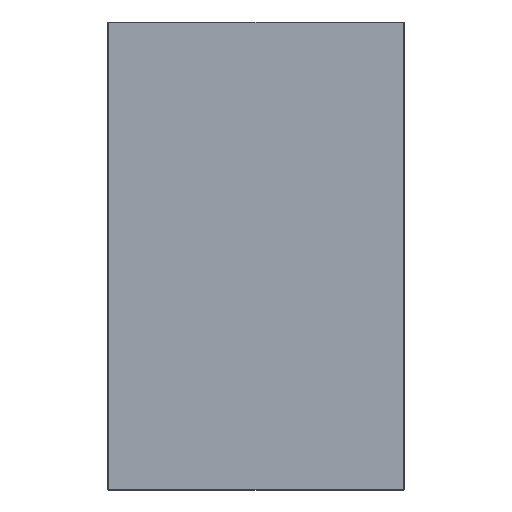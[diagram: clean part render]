
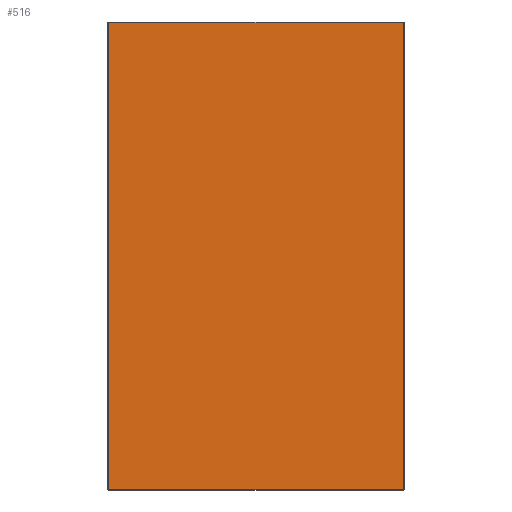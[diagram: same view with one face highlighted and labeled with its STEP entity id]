
A CAD part, front view. The second image highlights one B-rep face of the part: STEP entity #516.
In plain terms, the highlighted planar face has unit normal (0, -1, 0).
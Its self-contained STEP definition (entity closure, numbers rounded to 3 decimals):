
#18 = CARTESIAN_POINT ( 'NONE',  ( 0., 0., 0. ) ) ;
#25 = CARTESIAN_POINT ( 'NONE',  ( 0., 0., -272. ) ) ;
#27 = DIRECTION ( 'NONE',  ( 0., 0., 1. ) ) ;
#45 = DIRECTION ( 'NONE',  ( 0., 1., 0. ) ) ;
#75 = EDGE_CURVE ( 'NONE', #589, #77, #607, .T. ) ;
#77 = VERTEX_POINT ( 'NONE', #159 ) ;
#98 = LINE ( 'NONE', #512, #116 ) ;
#104 = FACE_OUTER_BOUND ( 'NONE', #146, .T. ) ;
#116 = VECTOR ( 'NONE', #246, 1000. ) ;
#120 = CARTESIAN_POINT ( 'NONE',  ( 172., 0., 272. ) ) ;
#126 = PLANE ( 'NONE',  #180 ) ;
#135 = DIRECTION ( 'NONE',  ( 1., 0., 0. ) ) ;
#140 = EDGE_CURVE ( 'NONE', #77, #536, #464, .T. ) ;
#145 = VECTOR ( 'NONE', #286, 1000. ) ;
#146 = EDGE_LOOP ( 'NONE', ( #489, #461, #462, #399 ) ) ;
#159 = CARTESIAN_POINT ( 'NONE',  ( -172., 0., -272. ) ) ;
#180 = AXIS2_PLACEMENT_3D ( 'NONE', #18, #45, #27 ) ;
#210 = CARTESIAN_POINT ( 'NONE',  ( 172., 0., -272. ) ) ;
#221 = VERTEX_POINT ( 'NONE', #120 ) ;
#246 = DIRECTION ( 'NONE',  ( 0., 0., 1. ) ) ;
#262 = LINE ( 'NONE', #550, #145 ) ;
#275 = CARTESIAN_POINT ( 'NONE',  ( -172., 0., 272. ) ) ;
#286 = DIRECTION ( 'NONE',  ( -1., 0., 0. ) ) ;
#348 = VECTOR ( 'NONE', #564, 1000. ) ;
#399 = ORIENTED_EDGE ( 'NONE', *, *, #140, .T. ) ;
#430 = EDGE_CURVE ( 'NONE', #221, #589, #262, .T. ) ;
#461 = ORIENTED_EDGE ( 'NONE', *, *, #430, .T. ) ;
#462 = ORIENTED_EDGE ( 'NONE', *, *, #75, .T. ) ;
#464 = LINE ( 'NONE', #25, #495 ) ;
#489 = ORIENTED_EDGE ( 'NONE', *, *, #571, .T. ) ;
#495 = VECTOR ( 'NONE', #135, 1000. ) ;
#512 = CARTESIAN_POINT ( 'NONE',  ( 172., 0., 0. ) ) ;
#516 = ADVANCED_FACE ( 'NONE', ( #104 ), #126, .F. ) ;
#534 = CARTESIAN_POINT ( 'NONE',  ( -172., 0., 0. ) ) ;
#536 = VERTEX_POINT ( 'NONE', #210 ) ;
#550 = CARTESIAN_POINT ( 'NONE',  ( 0., 0., 272. ) ) ;
#564 = DIRECTION ( 'NONE',  ( 0., 0., -1. ) ) ;
#571 = EDGE_CURVE ( 'NONE', #536, #221, #98, .T. ) ;
#589 = VERTEX_POINT ( 'NONE', #275 ) ;
#607 = LINE ( 'NONE', #534, #348 ) ;
